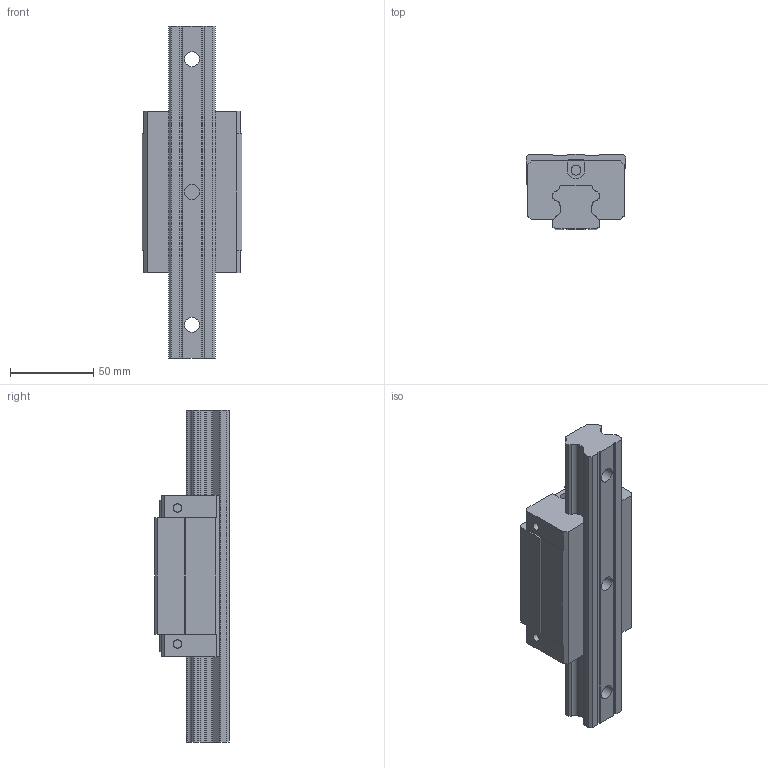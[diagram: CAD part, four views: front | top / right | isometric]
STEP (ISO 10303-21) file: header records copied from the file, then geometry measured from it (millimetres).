
FILE_DESCRIPTION((''),'2;1');
FILE_NAME('HGH30CA_ASM','2008-07-11T',('immo'),(''),'PRO/ENGINEER BY PARAMETRIC TECHNOLOGY CORPORATION, 2004360','PRO/ENGINEER BY PARAMETRIC TECHNOLOGY CORPORATION, 2004360','');
FILE_SCHEMA(('CONFIG_CONTROL_DESIGN'));
Length unit declared in the file: millimetre
Products named in the file (4): HGH30_1; HGR30_1; HGH30_ASM_2_ASM; HGH30CA_ASM
Assembly tree (3 placements, depth 3):
  HGH30CA_ASM
    HGH30_ASM_2_ASM
      HGH30_1
      HGR30_1
Bounding box: 60 x 45 x 200 mm (x, y, z)
Volume: 283484.4 mm3; surface area: 54110.1 mm2
Topology: 2 solids, 2 shells, 205 faces, 552 edges, 368 vertices
Faces by surface type: plane 119, cylinder 86
Entity records: 6600 total; most frequent: DIRECTION 1156, CARTESIAN_POINT 1134, ORIENTED_EDGE 1104, EDGE_CURVE 552, AXIS2_PLACEMENT_3D 390, VECTOR 376, LINE 376, VERTEX_POINT 368
